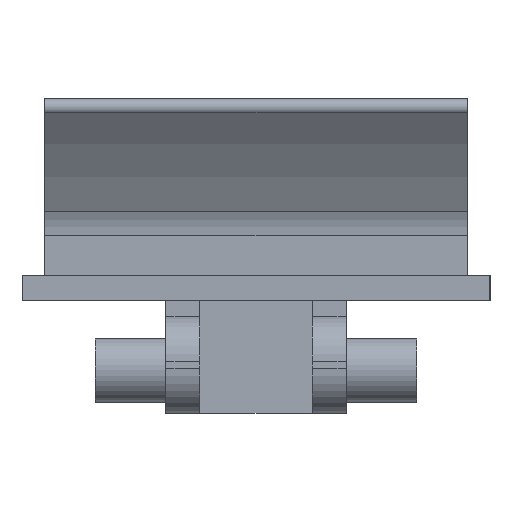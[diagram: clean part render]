
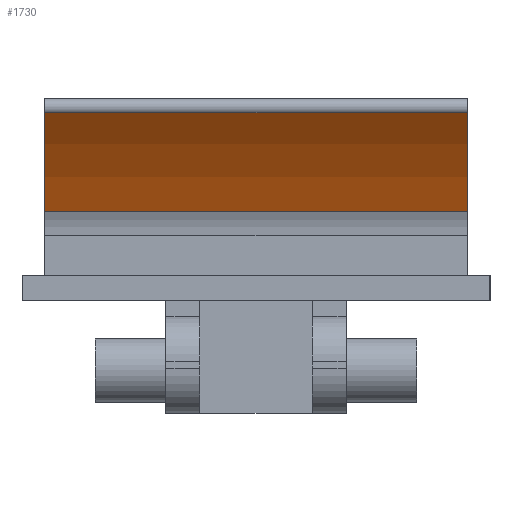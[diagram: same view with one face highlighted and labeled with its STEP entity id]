
A CAD part, front view. The second image highlights one B-rep face of the part: STEP entity #1730.
In plain terms, the highlighted cylindrical face has radius 79.492 mm (diameter 158.984 mm), a partial arc.
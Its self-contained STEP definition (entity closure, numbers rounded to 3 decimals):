
#107 = DIRECTION ( 'NONE',  ( 0., 0., -1. ) ) ;
#177 = CARTESIAN_POINT ( 'NONE',  ( 167.6, 99.746, 43.803 ) ) ;
#270 = DIRECTION ( 'NONE',  ( 0., 0., 1. ) ) ;
#293 = EDGE_CURVE ( 'NONE', #920, #502, #1350, .T. ) ;
#295 = EDGE_CURVE ( 'NONE', #2671, #2637, #2910, .T. ) ;
#322 = DIRECTION ( 'NONE',  ( 1., 0., 0. ) ) ;
#478 = CIRCLE ( 'NONE', #1638, 79.492 ) ;
#499 = CARTESIAN_POINT ( 'NONE',  ( 242.6, 27.505, 10.632 ) ) ;
#502 = VERTEX_POINT ( 'NONE', #1272 ) ;
#920 = VERTEX_POINT ( 'NONE', #1884 ) ;
#1138 = DIRECTION ( 'NONE',  ( 1., 0., 0. ) ) ;
#1263 = ORIENTED_EDGE ( 'NONE', *, *, #295, .F. ) ;
#1268 = VECTOR ( 'NONE', #1394, 1000. ) ;
#1272 = CARTESIAN_POINT ( 'NONE',  ( 242.6, 99.746, 43.803 ) ) ;
#1277 = ORIENTED_EDGE ( 'NONE', *, *, #2212, .F. ) ;
#1293 = CARTESIAN_POINT ( 'NONE',  ( 167.6, 27.505, 10.632 ) ) ;
#1350 = LINE ( 'NONE', #177, #1268 ) ;
#1394 = DIRECTION ( 'NONE',  ( 1., 0., 0. ) ) ;
#1429 = CARTESIAN_POINT ( 'NONE',  ( 242.6, 88.646, 61.433 ) ) ;
#1460 = CIRCLE ( 'NONE', #1666, 79.492 ) ;
#1566 = DIRECTION ( 'NONE',  ( 0., 0., 1. ) ) ;
#1585 = DIRECTION ( 'NONE',  ( -1., 0., 0. ) ) ;
#1638 = AXIS2_PLACEMENT_3D ( 'NONE', #2987, #1585, #1566 ) ;
#1666 = AXIS2_PLACEMENT_3D ( 'NONE', #499, #2407, #270 ) ;
#1699 = ORIENTED_EDGE ( 'NONE', *, *, #3039, .T. ) ;
#1730 = ADVANCED_FACE ( 'NONE', ( #2548 ), #2626, .F. ) ;
#1850 = CARTESIAN_POINT ( 'NONE',  ( 167.6, 88.646, 61.433 ) ) ;
#1884 = CARTESIAN_POINT ( 'NONE',  ( 167.6, 99.746, 43.803 ) ) ;
#2106 = CARTESIAN_POINT ( 'NONE',  ( 167.6, 88.646, 61.433 ) ) ;
#2212 = EDGE_CURVE ( 'NONE', #2637, #502, #1460, .T. ) ;
#2404 = ORIENTED_EDGE ( 'NONE', *, *, #293, .T. ) ;
#2407 = DIRECTION ( 'NONE',  ( -1., 0., 0. ) ) ;
#2548 = FACE_OUTER_BOUND ( 'NONE', #2887, .T. ) ;
#2626 = CYLINDRICAL_SURFACE ( 'NONE', #3066, 79.492 ) ;
#2637 = VERTEX_POINT ( 'NONE', #1429 ) ;
#2671 = VERTEX_POINT ( 'NONE', #2106 ) ;
#2770 = VECTOR ( 'NONE', #1138, 1000. ) ;
#2887 = EDGE_LOOP ( 'NONE', ( #1699, #2404, #1277, #1263 ) ) ;
#2910 = LINE ( 'NONE', #1850, #2770 ) ;
#2987 = CARTESIAN_POINT ( 'NONE',  ( 167.6, 27.505, 10.632 ) ) ;
#3039 = EDGE_CURVE ( 'NONE', #2671, #920, #478, .T. ) ;
#3066 = AXIS2_PLACEMENT_3D ( 'NONE', #1293, #322, #107 ) ;
